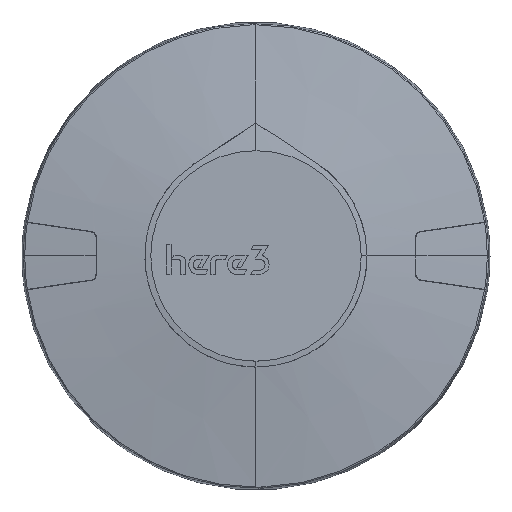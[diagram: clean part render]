
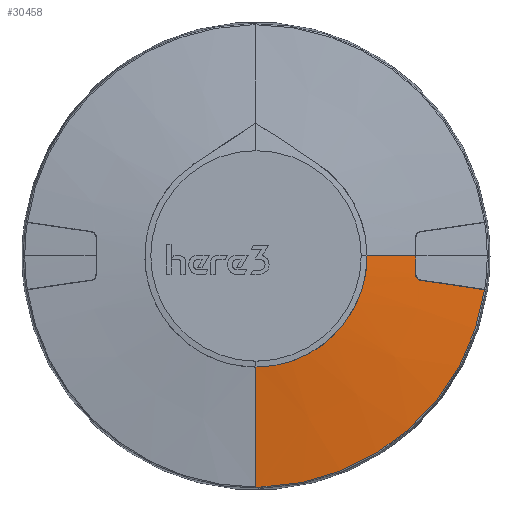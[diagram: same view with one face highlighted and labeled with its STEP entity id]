
A CAD part, top view. The second image highlights one B-rep face of the part: STEP entity #30458.
In plain terms, the highlighted conical face has half-angle 82.262 degrees and reference radius 24.779 mm.
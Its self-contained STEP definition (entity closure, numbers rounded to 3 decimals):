
#645 = CARTESIAN_POINT ( 'NONE',  ( 23.127, -2.682, 5.709 ) ) ;
#685 = ORIENTED_EDGE ( 'NONE', *, *, #20105, .T. ) ;
#823 = ORIENTED_EDGE ( 'NONE', *, *, #1549, .F. ) ;
#840 = VERTEX_POINT ( 'NONE', #25320 ) ;
#1549 = EDGE_CURVE ( 'NONE', #37677, #9220, #5009, .T. ) ;
#1638 = CARTESIAN_POINT ( 'NONE',  ( 24.779, 0., 5.505 ) ) ;
#1813 = VERTEX_POINT ( 'NONE', #9197 ) ;
#1871 = LINE ( 'NONE', #25990, #33159 ) ;
#3380 = CARTESIAN_POINT ( 'NONE',  ( 0., -16.102, 6.684 ) ) ;
#4451 = CARTESIAN_POINT ( 'NONE',  ( 23.763, -3.517, 5.608 ) ) ;
#5009 = CIRCLE ( 'NONE', #18128, 33.484 ) ;
#5337 = CARTESIAN_POINT ( 'NONE',  ( 14.063, -8.108, 6.686 ) ) ;
#5996 = CIRCLE ( 'NONE', #26101, 33.484 ) ;
#7044 = EDGE_CURVE ( 'NONE', #13637, #840, #18609, .T. ) ;
#7092 = DIRECTION ( 'NONE',  ( 0.989, -0.146, 0. ) ) ;
#7475 = CARTESIAN_POINT ( 'NONE',  ( 16.084, 0., 6.687 ) ) ;
#7702 = ORIENTED_EDGE ( 'NONE', *, *, #17734, .T. ) ;
#8033 = DIRECTION ( 'NONE',  ( 0.989, -0.146, 0. ) ) ;
#8764 = CARTESIAN_POINT ( 'NONE',  ( 9.889, -12.875, 6.685 ) ) ;
#8907 = CARTESIAN_POINT ( 'NONE',  ( 15.984, -2.105, 6.686 ) ) ;
#9197 = CARTESIAN_POINT ( 'NONE',  ( 33.124, -4.899, 4.322 ) ) ;
#9220 = VERTEX_POINT ( 'NONE', #20479 ) ;
#10073 = ORIENTED_EDGE ( 'NONE', *, *, #36203, .T. ) ;
#10611 = ORIENTED_EDGE ( 'NONE', *, *, #30291, .F. ) ;
#10704 = CARTESIAN_POINT ( 'NONE',  ( 23.815, -3.53, 5.601 ) ) ;
#11012 = CARTESIAN_POINT ( 'NONE',  ( 0., 0., 4.322 ) ) ;
#11441 = DIRECTION ( 'NONE',  ( 0., 0., -1. ) ) ;
#11522 = DIRECTION ( 'NONE',  ( 0., 0., -1. ) ) ;
#11584 = CARTESIAN_POINT ( 'NONE',  ( 16.085, -1.053, 6.686 ) ) ;
#11723 = CARTESIAN_POINT ( 'NONE',  ( 2.105, -16., 6.684 ) ) ;
#12038 = DIRECTION ( 'NONE',  ( 0., -0.991, -0.135 ) ) ;
#12164 = CARTESIAN_POINT ( 'NONE',  ( 16.084, 0., 6.687 ) ) ;
#13637 = VERTEX_POINT ( 'NONE', #7475 ) ;
#14120 = CARTESIAN_POINT ( 'NONE',  ( 23.267, -3.165, 5.682 ) ) ;
#14440 = CARTESIAN_POINT ( 'NONE',  ( 23.126, -1.785, 5.723 ) ) ;
#14952 = CARTESIAN_POINT ( 'NONE',  ( 0., 0., 5.505 ) ) ;
#15130 = DIRECTION ( 'NONE',  ( 0.991, 0., -0.135 ) ) ;
#15440 = CARTESIAN_POINT ( 'NONE',  ( 15.271, -5.186, 6.686 ) ) ;
#15493 = EDGE_CURVE ( 'NONE', #30027, #840, #26752, .T. ) ;
#15584 = CARTESIAN_POINT ( 'NONE',  ( 12.868, -9.892, 6.686 ) ) ;
#15891 = LINE ( 'NONE', #22207, #29669 ) ;
#17734 = EDGE_CURVE ( 'NONE', #20580, #9220, #1871, .T. ) ;
#18128 = AXIS2_PLACEMENT_3D ( 'NONE', #11012, #11441, #8033 ) ;
#18232 = CONICAL_SURFACE ( 'NONE', #21920, 24.779, 1.436 ) ;
#18561 = CARTESIAN_POINT ( 'NONE',  ( 8.106, -14.072, 6.685 ) ) ;
#18609 = LINE ( 'NONE', #1638, #28141 ) ;
#18644 = DIRECTION ( 'NONE',  ( 1., 0., 0. ) ) ;
#18709 = CARTESIAN_POINT ( 'NONE',  ( 5.185, -15.283, 6.685 ) ) ;
#18852 = CARTESIAN_POINT ( 'NONE',  ( 15.577, -4.171, 6.686 ) ) ;
#20105 = EDGE_CURVE ( 'NONE', #26490, #30027, #21684, .T. ) ;
#20479 = CARTESIAN_POINT ( 'NONE',  ( 0., -33.484, 4.322 ) ) ;
#20580 = VERTEX_POINT ( 'NONE', #3380 ) ;
#20953 = CARTESIAN_POINT ( 'NONE',  ( 23.127, -2.785, 5.707 ) ) ;
#21531 = ORIENTED_EDGE ( 'NONE', *, *, #7044, .F. ) ;
#21684 = B_SPLINE_CURVE_WITH_KNOTS ( 'NONE', 3,
 ( #24511, #10704, #4451, #41678, #34407, #41386, #34702, #14120, #37821, #31562, #20953, #645 ),
 .UNSPECIFIED., .F., .F.,
 ( 4, 2, 2, 2, 2, 4 ),
 ( 0., 0.125, 0.25, 0.5, 0.75, 1. ),
 .UNSPECIFIED. ) ;
#21920 = AXIS2_PLACEMENT_3D ( 'NONE', #14952, #11522, #18644 ) ;
#22207 = CARTESIAN_POINT ( 'NONE',  ( 33.124, -4.899, 4.322 ) ) ;
#23437 = EDGE_LOOP ( 'NONE', ( #21531, #42975, #7702, #823, #10611, #10073, #685, #42782 ) ) ;
#24511 = CARTESIAN_POINT ( 'NONE',  ( 23.868, -3.538, 5.594 ) ) ;
#25320 = CARTESIAN_POINT ( 'NONE',  ( 23.125, 0., 5.73 ) ) ;
#25480 = CARTESIAN_POINT ( 'NONE',  ( 0.868, -33.473, 4.322 ) ) ;
#25990 = CARTESIAN_POINT ( 'NONE',  ( 0., -16.102, 6.684 ) ) ;
#26101 = AXIS2_PLACEMENT_3D ( 'NONE', #30662, #37488, #7092 ) ;
#26490 = VERTEX_POINT ( 'NONE', #39140 ) ;
#26752 = B_SPLINE_CURVE_WITH_KNOTS ( 'NONE', 3,
 ( #41277, #14440, #34150, #31297 ),
 .UNSPECIFIED., .F., .F.,
 ( 4, 4 ),
 ( 0., 0.5 ),
 .UNSPECIFIED. ) ;
#28141 = VECTOR ( 'NONE', #15130, 1000. ) ;
#28747 = CARTESIAN_POINT ( 'NONE',  ( 23.127, -2.682, 5.709 ) ) ;
#29669 = VECTOR ( 'NONE', #42922, 1000. ) ;
#30027 = VERTEX_POINT ( 'NONE', #28747 ) ;
#30291 = EDGE_CURVE ( 'NONE', #1813, #37677, #5996, .T. ) ;
#30458 = ADVANCED_FACE ( 'NONE', ( #31988 ), #18232, .T. ) ;
#30662 = CARTESIAN_POINT ( 'NONE',  ( 0., 0., 4.322 ) ) ;
#31297 = CARTESIAN_POINT ( 'NONE',  ( 23.125, 0., 5.73 ) ) ;
#31562 = CARTESIAN_POINT ( 'NONE',  ( 23.144, -2.884, 5.703 ) ) ;
#31988 = FACE_OUTER_BOUND ( 'NONE', #23437, .T. ) ;
#33159 = VECTOR ( 'NONE', #12038, 1000. ) ;
#34150 = CARTESIAN_POINT ( 'NONE',  ( 23.125, -0.895, 5.73 ) ) ;
#34407 = CARTESIAN_POINT ( 'NONE',  ( 23.62, -3.465, 5.628 ) ) ;
#34702 = CARTESIAN_POINT ( 'NONE',  ( 23.4, -3.32, 5.661 ) ) ;
#35439 = CARTESIAN_POINT ( 'NONE',  ( 4.171, -15.591, 6.685 ) ) ;
#35587 = CARTESIAN_POINT ( 'NONE',  ( 1.053, -16.102, 6.684 ) ) ;
#35882 = CARTESIAN_POINT ( 'NONE',  ( 0., -16.102, 6.684 ) ) ;
#36203 = EDGE_CURVE ( 'NONE', #1813, #26490, #15891, .T. ) ;
#36572 = B_SPLINE_CURVE_WITH_KNOTS ( 'NONE', 3,
 ( #35882, #35587, #11723, #35439, #18709, #18561, #8764, #15584, #5337, #15440, #18852, #8907, #11584, #12164 ),
 .UNSPECIFIED., .F., .F.,
 ( 4, 2, 2, 2, 2, 2, 4 ),
 ( 0., 0.077, 0.153, 0.307, 0.46, 0.537, 0.614 ),
 .UNSPECIFIED. ) ;
#37488 = DIRECTION ( 'NONE',  ( 0., 0., -1. ) ) ;
#37677 = VERTEX_POINT ( 'NONE', #25480 ) ;
#37821 = CARTESIAN_POINT ( 'NONE',  ( 23.215, -3.076, 5.69 ) ) ;
#39140 = CARTESIAN_POINT ( 'NONE',  ( 23.868, -3.538, 5.594 ) ) ;
#40505 = EDGE_CURVE ( 'NONE', #20580, #13637, #36572, .T. ) ;
#41277 = CARTESIAN_POINT ( 'NONE',  ( 23.127, -2.682, 5.709 ) ) ;
#41386 = CARTESIAN_POINT ( 'NONE',  ( 23.481, -3.387, 5.649 ) ) ;
#41678 = CARTESIAN_POINT ( 'NONE',  ( 23.665, -3.484, 5.622 ) ) ;
#42782 = ORIENTED_EDGE ( 'NONE', *, *, #15493, .T. ) ;
#42922 = DIRECTION ( 'NONE',  ( -0.98, 0.144, 0.135 ) ) ;
#42975 = ORIENTED_EDGE ( 'NONE', *, *, #40505, .F. ) ;
